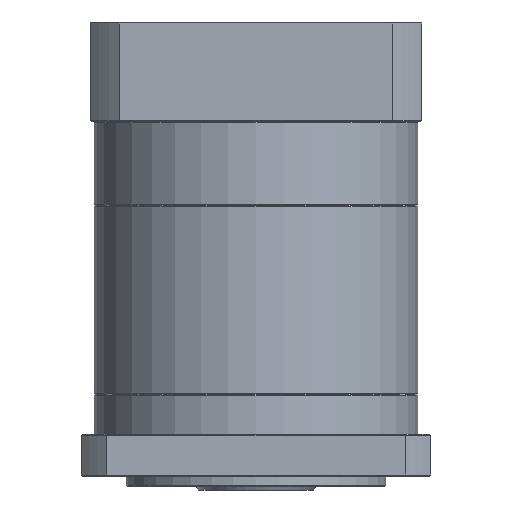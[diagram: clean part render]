
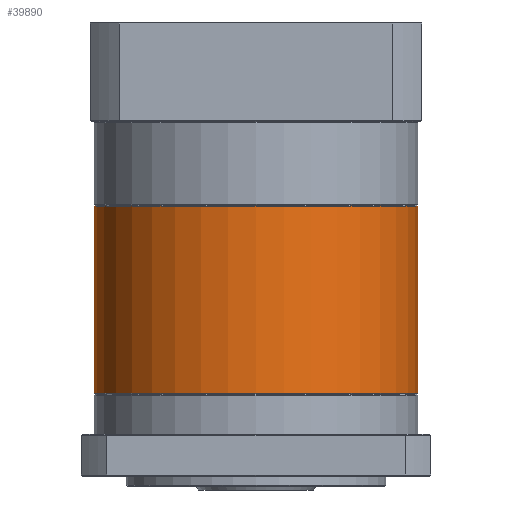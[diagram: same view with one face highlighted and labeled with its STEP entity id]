
A CAD part, front view. The second image highlights one B-rep face of the part: STEP entity #39890.
In plain terms, the highlighted cylindrical face has radius 81 mm (diameter 162 mm), a partial arc.
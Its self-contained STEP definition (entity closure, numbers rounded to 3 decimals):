
#6660 = LINE ( 'NONE', #120168, #60924 ) ;
#12148 = DIRECTION ( 'NONE',  ( 0., 0., 1. ) ) ;
#20735 = CARTESIAN_POINT ( 'NONE',  ( -48.227, 108.408, -104.209 ) ) ;
#20833 = CIRCLE ( 'NONE', #104019, 81. ) ;
#23285 = VERTEX_POINT ( 'NONE', #34695 ) ;
#24349 = VERTEX_POINT ( 'NONE', #59496 ) ;
#27526 = CIRCLE ( 'NONE', #103555, 81. ) ;
#28517 = VECTOR ( 'NONE', #90327, 1000. ) ;
#30547 = DIRECTION ( 'NONE',  ( 0., 0., -1. ) ) ;
#30850 = EDGE_CURVE ( 'NONE', #84629, #65288, #20833, .T. ) ;
#31265 = ORIENTED_EDGE ( 'NONE', *, *, #30850, .T. ) ;
#32687 = CARTESIAN_POINT ( 'NONE',  ( -48.227, 108.408, -103.709 ) ) ;
#34695 = CARTESIAN_POINT ( 'NONE',  ( 32.773, 108.408, -104.209 ) ) ;
#39890 = ADVANCED_FACE ( 'NONE', ( #127890 ), #69032, .T. ) ;
#43076 = DIRECTION ( 'NONE',  ( -1., 0., 0. ) ) ;
#57484 = EDGE_CURVE ( 'NONE', #23285, #65288, #76788, .T. ) ;
#59496 = CARTESIAN_POINT ( 'NONE',  ( -129.227, 108.408, -104.209 ) ) ;
#60651 = ORIENTED_EDGE ( 'NONE', *, *, #80952, .T. ) ;
#60922 = DIRECTION ( 'NONE',  ( 0., 0., -1. ) ) ;
#60924 = VECTOR ( 'NONE', #30547, 1000. ) ;
#61794 = DIRECTION ( 'NONE',  ( -1., 0., 0. ) ) ;
#65288 = VERTEX_POINT ( 'NONE', #85273 ) ;
#69032 = CYLINDRICAL_SURFACE ( 'NONE', #72799, 81. ) ;
#72526 = ORIENTED_EDGE ( 'NONE', *, *, #83624, .T. ) ;
#72799 = AXIS2_PLACEMENT_3D ( 'NONE', #32687, #101150, #43076 ) ;
#76788 = LINE ( 'NONE', #119683, #28517 ) ;
#80952 = EDGE_CURVE ( 'NONE', #23285, #24349, #27526, .T. ) ;
#80982 = CARTESIAN_POINT ( 'NONE',  ( -48.227, 108.408, -197.709 ) ) ;
#83624 = EDGE_CURVE ( 'NONE', #24349, #84629, #6660, .T. ) ;
#84629 = VERTEX_POINT ( 'NONE', #93919 ) ;
#85273 = CARTESIAN_POINT ( 'NONE',  ( 32.773, 108.408, -197.709 ) ) ;
#90327 = DIRECTION ( 'NONE',  ( 0., 0., -1. ) ) ;
#93919 = CARTESIAN_POINT ( 'NONE',  ( -129.227, 108.408, -197.709 ) ) ;
#100452 = DIRECTION ( 'NONE',  ( -1., 0., 0. ) ) ;
#101150 = DIRECTION ( 'NONE',  ( 0., 0., -1. ) ) ;
#103555 = AXIS2_PLACEMENT_3D ( 'NONE', #20735, #60922, #61794 ) ;
#104019 = AXIS2_PLACEMENT_3D ( 'NONE', #80982, #12148, #100452 ) ;
#110023 = ORIENTED_EDGE ( 'NONE', *, *, #57484, .F. ) ;
#110627 = EDGE_LOOP ( 'NONE', ( #110023, #60651, #72526, #31265 ) ) ;
#119683 = CARTESIAN_POINT ( 'NONE',  ( 32.773, 108.408, -103.709 ) ) ;
#120168 = CARTESIAN_POINT ( 'NONE',  ( -129.227, 108.408, -103.709 ) ) ;
#127890 = FACE_OUTER_BOUND ( 'NONE', #110627, .T. ) ;
